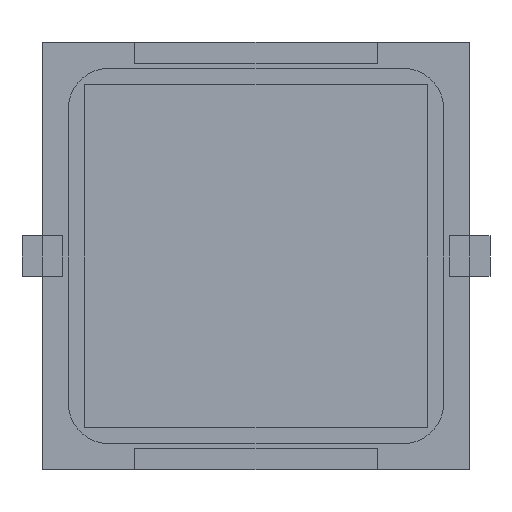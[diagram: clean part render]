
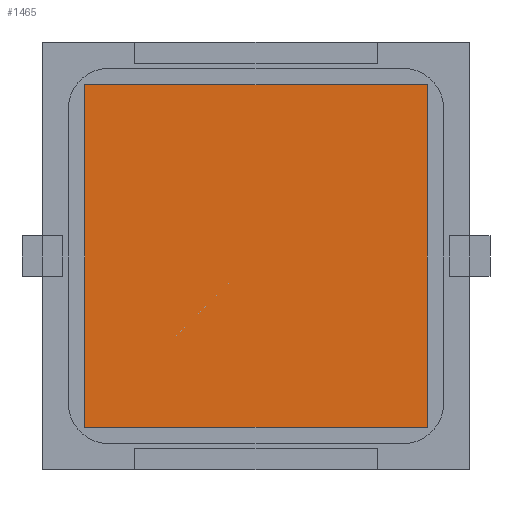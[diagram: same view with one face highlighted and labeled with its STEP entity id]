
A CAD part, front view. The second image highlights one B-rep face of the part: STEP entity #1465.
In plain terms, the highlighted planar face has unit normal (0, -1, 0).
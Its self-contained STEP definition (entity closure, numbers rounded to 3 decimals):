
#50 = EDGE_CURVE ( 'NONE', #3722, #5454, #783, .T. ) ;
#473 = CARTESIAN_POINT ( 'NONE',  ( -8.5, -0.127, 8.5 ) ) ;
#668 = VERTEX_POINT ( 'NONE', #5312 ) ;
#783 = LINE ( 'NONE', #4856, #3294 ) ;
#905 = EDGE_CURVE ( 'NONE', #668, #2843, #2543, .T. ) ;
#1033 = EDGE_LOOP ( 'NONE', ( #2383, #4705, #1713, #3562 ) ) ;
#1266 = DIRECTION ( 'NONE',  ( 0., 0., 1. ) ) ;
#1465 = ADVANCED_FACE ( 'NONE', ( #2978 ), #2077, .F. ) ;
#1713 = ORIENTED_EDGE ( 'NONE', *, *, #905, .F. ) ;
#2077 = PLANE ( 'NONE',  #4130 ) ;
#2383 = ORIENTED_EDGE ( 'NONE', *, *, #50, .F. ) ;
#2543 = LINE ( 'NONE', #5219, #2662 ) ;
#2558 = LINE ( 'NONE', #3453, #4484 ) ;
#2662 = VECTOR ( 'NONE', #5285, 1000. ) ;
#2843 = VERTEX_POINT ( 'NONE', #5743 ) ;
#2978 = FACE_OUTER_BOUND ( 'NONE', #1033, .T. ) ;
#3105 = CARTESIAN_POINT ( 'NONE',  ( -8.5, -0.127, -8.5 ) ) ;
#3294 = VECTOR ( 'NONE', #3425, 1000. ) ;
#3425 = DIRECTION ( 'NONE',  ( 0., 0., 1. ) ) ;
#3453 = CARTESIAN_POINT ( 'NONE',  ( -8.5, -0.127, 8.5 ) ) ;
#3562 = ORIENTED_EDGE ( 'NONE', *, *, #5304, .F. ) ;
#3722 = VERTEX_POINT ( 'NONE', #5683 ) ;
#3973 = LINE ( 'NONE', #3105, #5415 ) ;
#4130 = AXIS2_PLACEMENT_3D ( 'NONE', #5260, #4786, #1266 ) ;
#4355 = DIRECTION ( 'NONE',  ( 1., 0., 0. ) ) ;
#4370 = DIRECTION ( 'NONE',  ( -1., 0., 0. ) ) ;
#4484 = VECTOR ( 'NONE', #4355, 1000. ) ;
#4705 = ORIENTED_EDGE ( 'NONE', *, *, #4745, .F. ) ;
#4745 = EDGE_CURVE ( 'NONE', #2843, #3722, #3973, .T. ) ;
#4786 = DIRECTION ( 'NONE',  ( 0., 1., 0. ) ) ;
#4856 = CARTESIAN_POINT ( 'NONE',  ( -8.5, -0.127, -8.5 ) ) ;
#5219 = CARTESIAN_POINT ( 'NONE',  ( 8.5, -0.127, -8.5 ) ) ;
#5260 = CARTESIAN_POINT ( 'NONE',  ( -8.5, -0.127, 8.5 ) ) ;
#5285 = DIRECTION ( 'NONE',  ( 0., 0., -1. ) ) ;
#5304 = EDGE_CURVE ( 'NONE', #5454, #668, #2558, .T. ) ;
#5312 = CARTESIAN_POINT ( 'NONE',  ( 8.5, -0.127, 8.5 ) ) ;
#5415 = VECTOR ( 'NONE', #4370, 1000. ) ;
#5454 = VERTEX_POINT ( 'NONE', #473 ) ;
#5683 = CARTESIAN_POINT ( 'NONE',  ( -8.5, -0.127, -8.5 ) ) ;
#5743 = CARTESIAN_POINT ( 'NONE',  ( 8.5, -0.127, -8.5 ) ) ;
